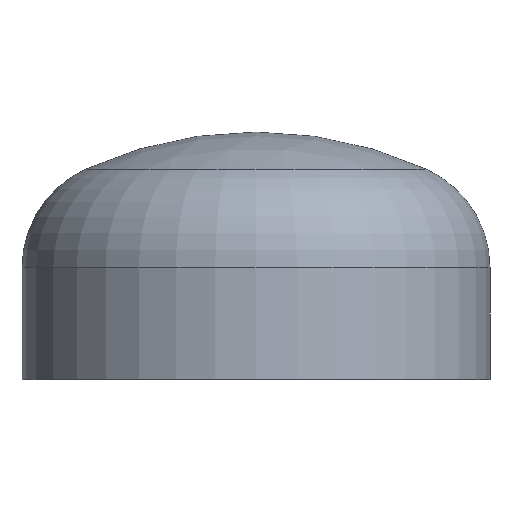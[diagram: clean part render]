
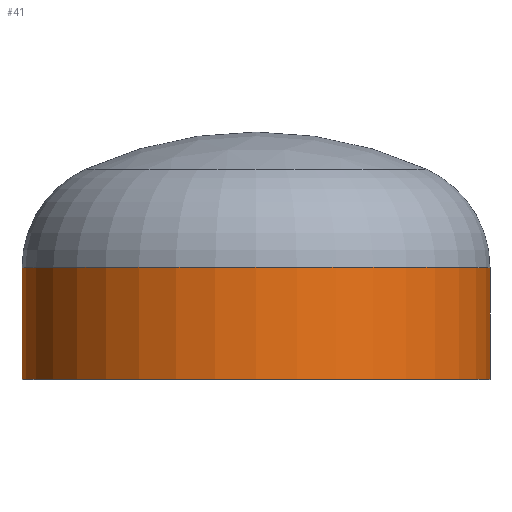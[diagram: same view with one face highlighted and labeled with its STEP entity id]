
A CAD part, top view. The second image highlights one B-rep face of the part: STEP entity #41.
In plain terms, the highlighted cylindrical face has radius 177.8 mm (diameter 355.6 mm), a partial arc.
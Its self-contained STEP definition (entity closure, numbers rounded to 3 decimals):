
#9 = ORIENTED_EDGE ( 'NONE', *, *, #356, .F. ) ;
#10 = CARTESIAN_POINT ( 'NONE',  ( 177.8, 0., 0. ) ) ;
#27 = VERTEX_POINT ( 'NONE', #10 ) ;
#39 = CARTESIAN_POINT ( 'NONE',  ( 0., 0., 0. ) ) ;
#41 = ADVANCED_FACE ( 'NONE', ( #258 ), #74, .T. ) ;
#69 = CARTESIAN_POINT ( 'NONE',  ( -177.8, 85., 0. ) ) ;
#74 = CYLINDRICAL_SURFACE ( 'NONE', #104, 177.8 ) ;
#84 = ORIENTED_EDGE ( 'NONE', *, *, #117, .T. ) ;
#86 = VERTEX_POINT ( 'NONE', #229 ) ;
#90 = LINE ( 'NONE', #276, #373 ) ;
#96 = ORIENTED_EDGE ( 'NONE', *, *, #395, .T. ) ;
#103 = DIRECTION ( 'NONE',  ( 0., -1., 0. ) ) ;
#104 = AXIS2_PLACEMENT_3D ( 'NONE', #39, #303, #293 ) ;
#111 = AXIS2_PLACEMENT_3D ( 'NONE', #251, #245, #209 ) ;
#115 = ORIENTED_EDGE ( 'NONE', *, *, #355, .F. ) ;
#117 = EDGE_CURVE ( 'NONE', #143, #146, #151, .T. ) ;
#143 = VERTEX_POINT ( 'NONE', #299 ) ;
#146 = VERTEX_POINT ( 'NONE', #69 ) ;
#151 = CIRCLE ( 'NONE', #111, 177.8 ) ;
#188 = VECTOR ( 'NONE', #367, 1000. ) ;
#190 = CARTESIAN_POINT ( 'NONE',  ( 0., 0., 0. ) ) ;
#205 = CIRCLE ( 'NONE', #372, 177.8 ) ;
#209 = DIRECTION ( 'NONE',  ( 1., 0., 0. ) ) ;
#218 = DIRECTION ( 'NONE',  ( 1., 0., 0. ) ) ;
#229 = CARTESIAN_POINT ( 'NONE',  ( -177.8, 0., 0. ) ) ;
#245 = DIRECTION ( 'NONE',  ( 0., -1., 0. ) ) ;
#251 = CARTESIAN_POINT ( 'NONE',  ( 0., 85., 0. ) ) ;
#258 = FACE_OUTER_BOUND ( 'NONE', #381, .T. ) ;
#276 = CARTESIAN_POINT ( 'NONE',  ( 177.8, 0., 0. ) ) ;
#293 = DIRECTION ( 'NONE',  ( 1., 0., 0. ) ) ;
#299 = CARTESIAN_POINT ( 'NONE',  ( 177.8, 85., 0. ) ) ;
#303 = DIRECTION ( 'NONE',  ( 0., -1., 0. ) ) ;
#313 = LINE ( 'NONE', #347, #188 ) ;
#346 = DIRECTION ( 'NONE',  ( 0., -1., 0. ) ) ;
#347 = CARTESIAN_POINT ( 'NONE',  ( -177.8, 0., 0. ) ) ;
#355 = EDGE_CURVE ( 'NONE', #143, #27, #90, .T. ) ;
#356 = EDGE_CURVE ( 'NONE', #27, #86, #205, .T. ) ;
#367 = DIRECTION ( 'NONE',  ( 0., -1., 0. ) ) ;
#372 = AXIS2_PLACEMENT_3D ( 'NONE', #190, #346, #218 ) ;
#373 = VECTOR ( 'NONE', #103, 1000. ) ;
#381 = EDGE_LOOP ( 'NONE', ( #84, #96, #9, #115 ) ) ;
#395 = EDGE_CURVE ( 'NONE', #146, #86, #313, .T. ) ;
